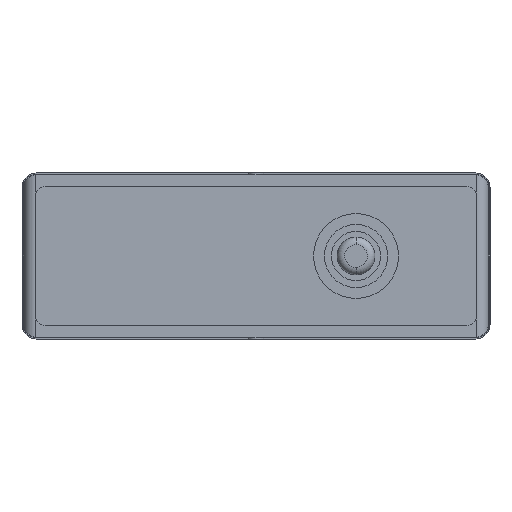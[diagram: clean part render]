
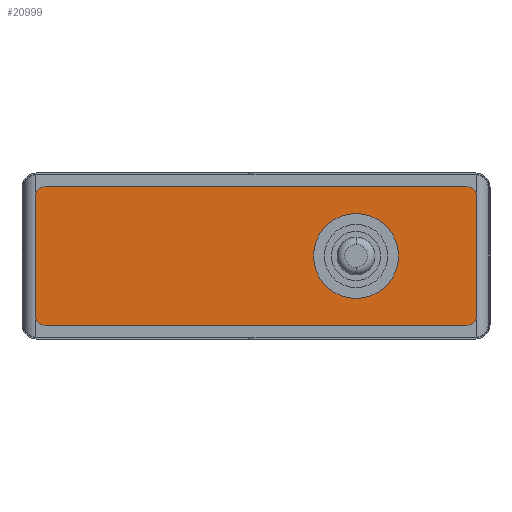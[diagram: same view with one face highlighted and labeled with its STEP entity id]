
A CAD part, front view. The second image highlights one B-rep face of the part: STEP entity #20999.
In plain terms, the highlighted planar face has unit normal (0, -1, 0).
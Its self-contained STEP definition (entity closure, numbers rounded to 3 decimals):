
#9492=CARTESIAN_POINT('',(62.23,-58.423,-62.23));
#9493=DIRECTION('',(0.,1.,0.));
#9494=DIRECTION('',(-1.,0.,0.));
#9495=AXIS2_PLACEMENT_3D('',#9492,#9493,#9494);
#9497=CARTESIAN_POINT('',(1197.61,-58.423,-62.23));
#9498=DIRECTION('',(0.,1.,0.));
#9499=DIRECTION('',(0.,0.,1.));
#9500=AXIS2_PLACEMENT_3D('',#9497,#9498,#9499);
#9502=CARTESIAN_POINT('',(1197.61,-58.423,-384.81));
#9503=DIRECTION('',(0.,1.,0.));
#9504=DIRECTION('',(1.,0.,0.));
#9505=AXIS2_PLACEMENT_3D('',#9502,#9503,#9504);
#9507=DIRECTION('',(-1.,0.,0.));
#9508=VECTOR('',#9507,1135.38);
#9509=CARTESIAN_POINT('',(1197.61,-58.423,-410.21));
#9510=LINE('',#9509,#9508);
#9511=CARTESIAN_POINT('',(62.23,-58.423,-384.81));
#9512=DIRECTION('',(0.,1.,0.));
#9513=DIRECTION('',(0.,0.,-1.));
#9514=AXIS2_PLACEMENT_3D('',#9511,#9512,#9513);
#9516=CARTESIAN_POINT('',(899.16,-58.423,-223.52));
#9517=DIRECTION('',(0.,-1.,0.));
#9518=DIRECTION('',(0.,0.,-1.));
#9519=AXIS2_PLACEMENT_3D('',#9516,#9517,#9518);
#9521=CARTESIAN_POINT('',(899.16,-58.423,-223.52));
#9522=DIRECTION('',(0.,-1.,0.));
#9523=DIRECTION('',(0.,0.,1.));
#9524=AXIS2_PLACEMENT_3D('',#9521,#9522,#9523);
#9530=DIRECTION('',(-1.,0.,0.));
#9531=VECTOR('',#9530,1135.38);
#9532=CARTESIAN_POINT('',(1197.61,-58.423,-36.83));
#9533=LINE('',#9532,#9531);
#9538=DIRECTION('',(0.,0.,1.));
#9539=VECTOR('',#9538,322.58);
#9540=CARTESIAN_POINT('',(1223.01,-58.423,-384.81));
#9541=LINE('',#9540,#9539);
#9562=DIRECTION('',(0.,0.,-1.));
#9563=VECTOR('',#9562,322.58);
#9564=CARTESIAN_POINT('',(36.83,-58.423,-62.23));
#9565=LINE('',#9564,#9563);
#11492=CARTESIAN_POINT('',(1197.61,-58.423,-410.21));
#11493=CARTESIAN_POINT('',(62.23,-58.423,-410.21));
#11494=VERTEX_POINT('',#11492);
#11495=VERTEX_POINT('',#11493);
#11496=CARTESIAN_POINT('',(36.83,-58.423,-384.81));
#11497=VERTEX_POINT('',#11496);
#11498=CARTESIAN_POINT('',(36.83,-58.423,-62.23));
#11499=CARTESIAN_POINT('',(62.23,-58.423,-36.83));
#11500=VERTEX_POINT('',#11498);
#11501=VERTEX_POINT('',#11499);
#11502=CARTESIAN_POINT('',(1197.61,-58.423,-36.83));
#11503=VERTEX_POINT('',#11502);
#11504=CARTESIAN_POINT('',(1223.01,-58.423,-62.23));
#11505=VERTEX_POINT('',#11504);
#11506=CARTESIAN_POINT('',(1223.01,-58.423,-384.81));
#11507=VERTEX_POINT('',#11506);
#11508=CARTESIAN_POINT('',(899.16,-58.423,-337.82));
#11509=CARTESIAN_POINT('',(899.16,-58.423,-109.22));
#11510=VERTEX_POINT('',#11508);
#11511=VERTEX_POINT('',#11509);
#20972=CARTESIAN_POINT('',(629.92,-58.423,-223.52));
#20973=DIRECTION('',(0.,1.,0.));
#20974=DIRECTION('',(-1.,0.,0.));
#20975=AXIS2_PLACEMENT_3D('',#20972,#20973,#20974);
#20976=PLANE('',#20975);
#20978=ORIENTED_EDGE('',*,*,#20977,.T.);
#20980=ORIENTED_EDGE('',*,*,#20979,.F.);
#20982=ORIENTED_EDGE('',*,*,#20981,.T.);
#20984=ORIENTED_EDGE('',*,*,#20983,.F.);
#20986=ORIENTED_EDGE('',*,*,#20985,.T.);
#20987=ORIENTED_EDGE('',*,*,#20950,.T.);
#20988=ORIENTED_EDGE('',*,*,#20963,.T.);
#20990=ORIENTED_EDGE('',*,*,#20989,.F.);
#20991=EDGE_LOOP('',(#20978,#20980,#20982,#20984,#20986,#20987,#20988,#20990));
#20992=FACE_OUTER_BOUND('',#20991,.F.);
#20994=ORIENTED_EDGE('',*,*,#20993,.T.);
#20996=ORIENTED_EDGE('',*,*,#20995,.T.);
#20997=EDGE_LOOP('',(#20994,#20996));
#20998=FACE_BOUND('',#20997,.F.);
#20999=ADVANCED_FACE('',(#20992,#20998),#20976,.F.);
#9496=CIRCLE('',#9495,25.4);
#9501=CIRCLE('',#9500,25.4);
#9506=CIRCLE('',#9505,25.4);
#9515=CIRCLE('',#9514,25.4);
#9520=CIRCLE('',#9519,114.3);
#9525=CIRCLE('',#9524,114.3);
#20950=EDGE_CURVE('',#11494,#11495,#9510,.T.);
#20963=EDGE_CURVE('',#11495,#11497,#9515,.T.);
#20977=EDGE_CURVE('',#11500,#11501,#9496,.T.);
#20979=EDGE_CURVE('',#11503,#11501,#9533,.T.);
#20981=EDGE_CURVE('',#11503,#11505,#9501,.T.);
#20983=EDGE_CURVE('',#11507,#11505,#9541,.T.);
#20985=EDGE_CURVE('',#11507,#11494,#9506,.T.);
#20989=EDGE_CURVE('',#11500,#11497,#9565,.T.);
#20993=EDGE_CURVE('',#11510,#11511,#9520,.T.);
#20995=EDGE_CURVE('',#11511,#11510,#9525,.T.);
